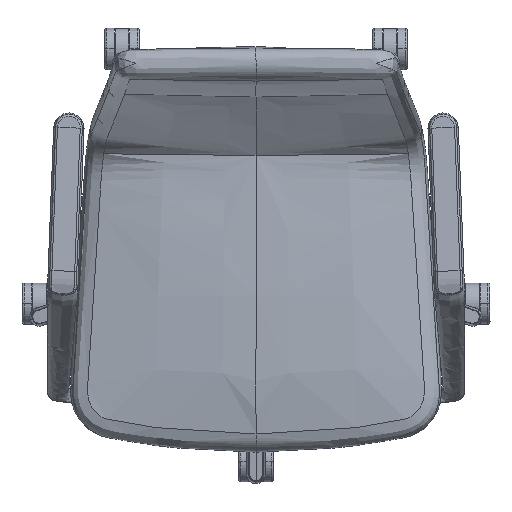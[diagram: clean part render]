
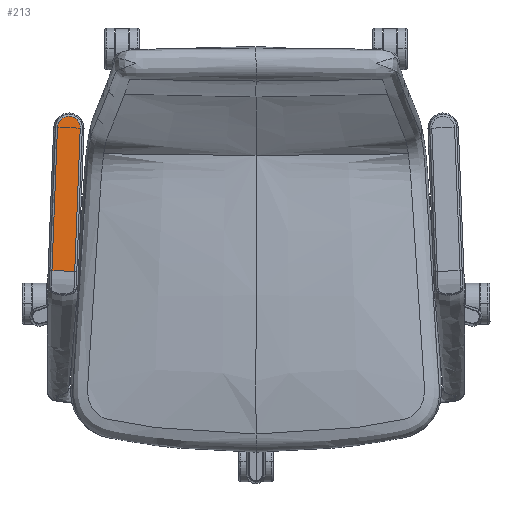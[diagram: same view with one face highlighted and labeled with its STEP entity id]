
A CAD part, top view. The second image highlights one B-rep face of the part: STEP entity #213.
In plain terms, the highlighted planar face has unit normal (0.001, 0.068, 0.998).
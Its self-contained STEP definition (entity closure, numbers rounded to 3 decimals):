
#74=PLANE('',#3681);
#213=ADVANCED_FACE('',(#464),#74,.T.);
#464=FACE_OUTER_BOUND('',#717,.T.);
#717=EDGE_LOOP('',(#1050,#1051));
#1050=ORIENTED_EDGE('',*,*,#2030,.T.);
#1051=ORIENTED_EDGE('',*,*,#2023,.F.);
#2023=EDGE_CURVE('',#3137,#3132,#2563,.T.);
#2030=EDGE_CURVE('',#3137,#3132,#2716,.T.);
#2563=B_SPLINE_CURVE_WITH_KNOTS('',1,(#12419,#12420),.UNSPECIFIED.,.F.,
 .F.,(2,2),(0.077,0.923),.UNSPECIFIED.);
#2716=(
BOUNDED_CURVE()
B_SPLINE_CURVE(3,(#12482,#12483,#12484,#12485,#12486,#12487,#12488,#12489,
#12490,#12491,#12492,#12493,#12494,#12495,#12496,#12497,#12498,#12499,#12500,
#12501,#12502,#12503,#12504),.UNSPECIFIED.,.F.,.F.)
B_SPLINE_CURVE_WITH_KNOTS((4,3,3,1,1,1,1,1,1,1,3,3,4),(0.,
4.793,208.24,214.719,221.199,227.678,
234.157,240.637,247.116,253.596,260.075,
463.522,468.315),.UNSPECIFIED.)
CURVE()
GEOMETRIC_REPRESENTATION_ITEM()
RATIONAL_B_SPLINE_CURVE((1.,1.,1.,1.,1.,1.,1.,1.,1.,1.,1.,
1.,1.,1.,1.,1.,1.,1.,
1.,1.,1.,1.,1.))
REPRESENTATION_ITEM('')
);
#3132=VERTEX_POINT('',#12300);
#3137=VERTEX_POINT('',#12305);
#3681=AXIS2_PLACEMENT_3D('',#11942,#3737,$);
#3737=DIRECTION('',(0.001,0.068,0.998));
#11942=CARTESIAN_POINT('',(-289.75,191.229,639.23));
#12300=CARTESIAN_POINT('',(-295.503,-35.93,654.737));
#12305=CARTESIAN_POINT('',(-262.527,-37.196,654.799));
#12419=CARTESIAN_POINT('',(-262.527,-37.196,654.799));
#12420=CARTESIAN_POINT('',(-295.503,-35.93,654.737));
#12482=CARTESIAN_POINT('',(-262.527,-37.196,654.799));
#12483=CARTESIAN_POINT('',(-262.466,-35.604,654.69));
#12484=CARTESIAN_POINT('',(-262.404,-34.011,654.582));
#12485=CARTESIAN_POINT('',(-262.343,-32.418,654.473));
#12486=CARTESIAN_POINT('',(-259.738,35.19,649.857));
#12487=CARTESIAN_POINT('',(-257.131,102.798,645.241));
#12488=CARTESIAN_POINT('',(-254.526,170.407,640.625));
#12489=CARTESIAN_POINT('',(-254.441,172.559,640.478));
#12490=CARTESIAN_POINT('',(-255.135,176.898,640.183));
#12491=CARTESIAN_POINT('',(-258.591,182.515,639.802));
#12492=CARTESIAN_POINT('',(-263.938,186.385,639.542));
#12493=CARTESIAN_POINT('',(-270.363,187.918,639.442));
#12494=CARTESIAN_POINT('',(-276.886,186.882,639.517));
#12495=CARTESIAN_POINT('',(-282.516,183.434,639.757));
#12496=CARTESIAN_POINT('',(-286.394,178.099,640.124));
#12497=CARTESIAN_POINT('',(-287.419,173.826,640.416));
#12498=CARTESIAN_POINT('',(-287.501,171.673,640.563));
#12499=CARTESIAN_POINT('',(-290.107,104.065,645.179));
#12500=CARTESIAN_POINT('',(-292.713,36.457,649.795));
#12501=CARTESIAN_POINT('',(-295.319,-31.151,654.411));
#12502=CARTESIAN_POINT('',(-295.38,-32.744,654.52));
#12503=CARTESIAN_POINT('',(-295.442,-34.337,654.628));
#12504=CARTESIAN_POINT('',(-295.503,-35.93,654.737));
